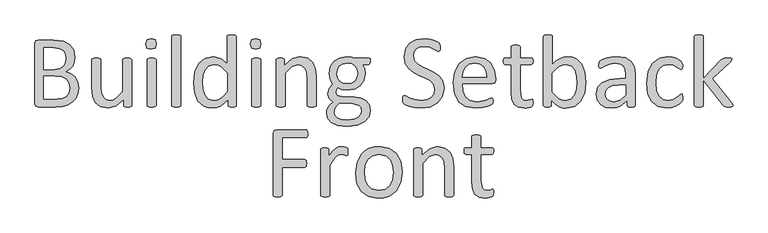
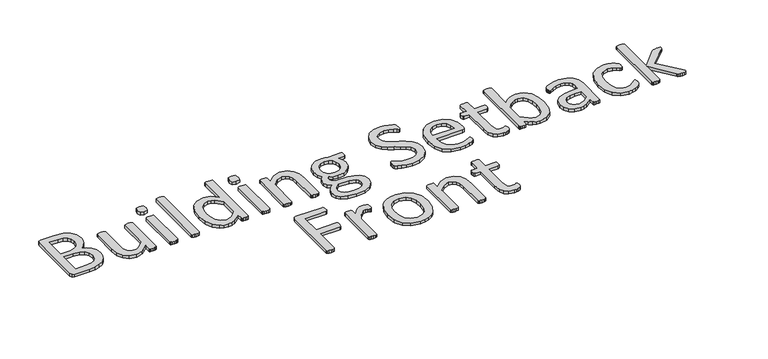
"""IFC4 building model written with IfcOpenShell, lengths in millimetres: proxy geometry, Marker-Setback Bldg Distance : Setback-Building-Front."""

from ifc_helpers import new_model, si_unit, origin, origin_with_axes, place, context, project, spatial, polyline, outline, extrude, source, transform, mapped, element, save


def generic_models_9ae01eea(model_context):
    return source(origin(), model_context, "Body", "SweptSolid", [
        extrude(outline(polyline([(2948.652928, 103.9978258), (2946.2704862, 86.8080563), (2939.5755234, 72.6340358), (2929.2013467, 61.6265518), (2915.5098461, 53.6649743), (2899.1946438, 48.8397759), (2879.2907001, 47.2414289), (2827.2388718, 47.2414289), (2820.5740664, 49.6540281), (2817.4075299, 58.0981254), (2817.4075299, 237.1129882), (2820.6042239, 245.5570855), (2827.3595017, 247.9696848), (2872.9576272, 247.9696848), (2902.4818102, 244.5015734), (2921.6318166, 234.4289716), (2933.1821354, 218.2042418), (2937.0724517, 196.4606912), (2935.3534747, 182.6184031), (2930.3171738, 170.4046195), (2921.9333915, 160.3923327), (2910.3529152, 153.1545351), (2925.3110304, 147.5753993), (2937.4343416, 137.2313801), (2945.6371789, 122.5446823), (2948.652928, 103.9978258)]), holes=[polyline([(2910.0513403, 192.8417924), (2908.0307885, 206.1714031), (2901.6977155, 216.2741624), (2890.4188141, 222.6072354), (2871.9925875, 224.8087322), (2844.4286413, 224.8087322), (2844.4286413, 159.1860331), (2874.7670766, 159.1860331), (2891.4743262, 161.9303648), (2901.9992904, 169.2887924), (2908.1212609, 180.085174), (2910.0513403, 192.8417924)]), polyline([(2921.6318166, 103.7565658), (2918.7970125, 119.3178309), (2910.5037027, 130.5967323), (2896.812202, 137.5329551), (2876.0940062, 139.8852393), (2844.4286413, 139.8852393), (2844.4286413, 70.4023815), (2882.849284, 70.4023815), (2898.7121239, 72.5435633), (2910.6243326, 78.8766363), (2918.70654, 89.311128), (2921.6318166, 103.7565658)])]), origin_with_axes(), (0.0, 0.0, 1.0), 10.0),
        extrude(outline(polyline([(3106.9194374, 51.9459974), (3106.3464451, 49.8952881), (3104.3258932, 48.4477285), (3100.495892, 47.5430038), (3094.7358113, 47.2414289), (3088.5836833, 47.5430038), (3084.8441545, 48.4477285), (3082.9743901, 49.8952881), (3082.4918702, 51.9459974), (3082.4918702, 70.1008066), (3059.3610751, 49.7746581), (3036.23028, 43.3812701), (3013.1899574, 48.0255236), (2998.0508972, 60.6011971), (2989.7575873, 79.1178962), (2987.2545156, 104.8422355), (2987.2545156, 189.1625786), (2987.827508, 191.2132879), (2990.0290048, 192.7513199), (2994.2510534, 193.6862021), (3000.7650713, 193.927462), (3007.2790892, 193.6862021), (3011.4106654, 192.7814774), (3013.6121622, 191.2736029), (3014.275627, 189.1625786), (3014.275627, 109.0642841), (3015.9644465, 89.7333328), (3021.1515348, 77.3386043), (3029.957522, 69.3770268), (3042.382408, 66.5422227), (3051.527667, 68.2385816), (3060.6276897, 73.3276581), (3079.898326, 93.2617592), (3079.898326, 189.2228935), (3080.4713184, 191.2736029), (3082.6728152, 192.7814774), (3086.8345488, 193.6862021), (3093.4088817, 193.927462), (3099.9228996, 193.6862021), (3103.9941608, 192.7814774), (3106.1956576, 191.2736029), (3106.9194374, 189.2228935), (3106.9194374, 51.9459974)])), origin_with_axes(), (0.0, 0.0, 1.0), 10.0),
        extrude(outline(polyline([(3180.262454, 51.9459974), (3179.5989892, 49.8952881), (3177.4578074, 48.4477285), (3173.3865462, 47.5430038), (3166.6915833, 47.2414289), (3160.1172504, 47.5430038), (3155.9555167, 48.4477285), (3153.8143349, 49.8952881), (3153.2413426, 51.9459974), (3153.2413426, 189.2228935), (3153.8143349, 191.1831304), (3155.9555167, 192.7211624), (3160.1172504, 193.6258871), (3166.6915833, 193.927462), (3173.3865462, 193.6258871), (3177.4578074, 192.7211624), (3179.5989892, 191.1831304), (3180.262454, 189.2228935), (3180.262454, 51.9459974)])), origin_with_axes(), (0.0, 0.0, 1.0), 10.0),
        extrude(outline(polyline([(3180.262454, 236.5701534), (3176.94513, 224.2357399), (3164.640874, 220.9485734), (3152.6381928, 224.1452674), (3149.3811838, 236.2082635), (3152.6985078, 248.5426771), (3165.0027639, 251.8298435), (3177.005445, 248.6331496), (3180.262454, 236.5701534)])), origin_with_axes(), (0.0, 0.0, 1.0), 10.0),
        extrude(outline(polyline([(3253.6054705, 52.0063124), (3252.9420058, 49.955603), (3250.8008239, 48.477886), (3246.7295627, 47.5430038), (3240.0345999, 47.2414289), (3233.460267, 47.5430038), (3229.2985333, 48.477886), (3227.1573515, 49.955603), (3226.5843592, 52.0063124), (3226.5843592, 258.4644914), (3227.1573515, 260.6358307), (3229.2985333, 262.1738627), (3233.460267, 263.1087449), (3240.0345999, 263.4103198), (3246.7295627, 263.1087449), (3250.8008239, 262.1738627), (3252.9420058, 260.6358307), (3253.6054705, 258.4644914), (3253.6054705, 52.0063124)])), origin_with_axes(), (0.0, 0.0, 1.0), 10.0),
        extrude(outline(polyline([(3419.5922975, 52.0666274), (3419.0193052, 49.8651306), (3417.0590683, 48.3874135), (3413.410012, 47.5430038), (3407.8911913, 47.2414289), (3402.1612681, 47.5430038), (3398.4217393, 48.3270986), (3396.310715, 49.6841856), (3395.6472502, 51.7047375), (3395.6472502, 68.834192), (3373.2402348, 50.1063905), (3361.0792268, 45.0625502), (3347.8174704, 43.3812701), (3333.8545524, 44.8816053), (3322.1232887, 49.3826107), (3304.9033617, 65.6073405), (3295.2529647, 89.6730178), (3292.2070582, 118.774996), (3296.006902, 151.4958731), (3307.2254884, 176.4059601), (3325.6215575, 192.2386426), (3351.0141644, 197.7876208), (3372.9386599, 192.38943), (3392.5711861, 176.5567476), (3392.5711861, 258.4041764), (3393.1441785, 260.5152008), (3395.3456753, 262.0833903), (3399.5074089, 263.0182725), (3405.9007969, 263.4103198), (3412.5957598, 263.0182725), (3416.6670209, 262.0833903), (3418.8685177, 260.5453582), (3419.5922975, 258.4644914), (3419.5922975, 52.0666274)]), holes=[polyline([(3392.5711861, 149.0531164), (3373.2100773, 168.0824928), (3363.6652316, 172.9906243), (3353.7283386, 174.6266682), (3337.7448687, 170.0427297), (3327.0691171, 157.949576), (3321.097934, 140.9407515), (3319.2281696, 121.6701151), (3320.7963591, 101.2836516), (3326.2548648, 83.6113623), (3336.5687265, 71.2166337), (3352.7029839, 66.5422227), (3362.1724359, 67.8993098), (3371.5212579, 72.3927759), (3381.5033872, 80.5352983), (3392.5711861, 92.8998693), (3392.5711861, 149.0531164)])]), origin_with_axes(), (0.0, 0.0, 1.0), 10.0),
        extrude(outline(polyline([(3492.9353141, 236.5701534), (3489.6179901, 224.2357399), (3477.3137341, 220.9485734), (3465.3110529, 224.1452674), (3462.0540439, 236.2082635), (3465.3713679, 248.5426771), (3477.675624, 251.8298435), (3489.6783051, 248.6331496), (3492.9353141, 236.5701534)])), origin_with_axes(), (0.0, 0.0, 1.0), 10.0),
        extrude(outline(polyline([(3492.9353141, 51.9459974), (3492.2718493, 49.8952881), (3490.1306675, 48.4477285), (3486.0594063, 47.5430038), (3479.3644434, 47.2414289), (3472.7901105, 47.5430038), (3468.6283768, 48.4477285), (3466.487195, 49.8952881), (3465.9142027, 51.9459974), (3465.9142027, 189.2228935), (3466.487195, 191.1831304), (3468.6283768, 192.7211624), (3472.7901105, 193.6258871), (3479.3644434, 193.927462), (3486.0594063, 193.6258871), (3490.1306675, 192.7211624), (3492.2718493, 191.1831304), (3492.9353141, 189.2228935), (3492.9353141, 51.9459974)])), origin_with_axes(), (0.0, 0.0, 1.0), 10.0),
        extrude(outline(polyline([(3658.922141, 52.0063124), (3658.2586763, 49.955603), (3656.1174944, 48.477886), (3652.0462332, 47.5430038), (3645.4719003, 47.2414289), (3638.7769375, 47.5430038), (3634.7056763, 48.4477285), (3632.5644945, 49.8952881), (3631.9010297, 52.0063124), (3631.9010297, 132.5871266), (3630.1217378, 151.5260306), (3624.9648069, 163.9207591), (3616.1889772, 171.8823366), (3603.7339337, 174.6266682), (3585.428337, 167.9015478), (3566.2783306, 148.1483917), (3566.2783306, 52.0063124), (3565.6148659, 49.8952881), (3563.473684, 48.4477285), (3559.4024228, 47.5430038), (3552.70746, 47.2414289), (3546.1331271, 47.5430038), (3541.9713934, 48.4477285), (3539.8302116, 49.8952881), (3539.2572193, 51.9459974), (3539.2572193, 189.2228935), (3539.7397391, 191.2736029), (3541.699976, 192.7814774), (3545.4696623, 193.6862021), (3551.5614754, 193.927462), (3557.5326584, 193.6862021), (3561.2118723, 192.7814774), (3563.1117942, 191.2736029), (3563.6847865, 189.2228935), (3563.6847865, 171.0680843), (3586.7552666, 191.3640754), (3609.9463767, 197.7876208), (3632.9866993, 193.0830523), (3648.1257595, 180.5073788), (3656.4190693, 162.0811522), (3658.922141, 136.6885453), (3658.922141, 52.0063124)])), origin_with_axes(), (0.0, 0.0, 1.0), 10.0),
        extrude(outline(polyline([(3821.0488092, 184.2167501), (3819.5710922, 176.88848), (3815.8014059, 174.6266682), (3795.8371473, 174.6266682), (3803.4368349, 162.1414672), (3805.6081742, 147.9674467), (3801.7480154, 126.4953136), (3790.6802165, 110.6927886), (3773.5507619, 100.8312893), (3751.5659514, 97.4234929), (3735.3713791, 99.6853046), (3723.5194854, 105.3850703), (3718.694287, 99.0821548), (3716.8245225, 90.9094749), (3721.9512959, 81.9828578), (3735.5824816, 78.122699), (3772.6158797, 76.5545095), (3792.0373035, 73.629233), (3807.3271511, 66.1803328), (3817.4299104, 54.3284391), (3821.0488092, 38.0132368), (3817.0077055, 19.3457503), (3804.612977, 3.7844853), (3783.3217888, -6.8007938), (3752.7722511, -10.6609526), (3723.8512178, -7.7658335), (3704.309164, 0.135429), (3693.2413651, 12.1079526), (3689.8034112, 27.1565403), (3691.0398683, 37.1989846), (3694.8397121, 46.4271767), (3701.1727851, 54.7808015), (3709.8882998, 62.682064), (3697.6443587, 72.6038783), (3693.6635699, 85.5414417), (3697.7649886, 102.7010537), (3707.8979054, 116.2417669), (3700.2982178, 129.2094877), (3697.5237287, 146.7611471), (3701.5346749, 168.2031228), (3712.6929464, 184.2469076), (3729.8224009, 194.2893519), (3751.5659514, 197.7876208), (3763.3876877, 196.7622661), (3773.7015494, 193.927462), (3815.8014059, 193.927462), (3819.7218797, 191.5450203), (3821.0488092, 184.2167501)]), holes=[polyline([(3782.4472216, 147.7865018), (3780.411591, 160.6712895), (3774.3046992, 170.3744621), (3764.4431998, 176.4587357), (3751.1437466, 178.486827), (3737.6935059, 175.9535978), (3728.1637389, 169.017375), (3722.5242882, 158.8543007), (3720.6846813, 146.8214621), (3722.7203119, 134.2759461), (3728.8272037, 124.7461791), (3738.5982306, 118.7297598), (3751.6262664, 116.7242867), (3765.3479245, 119.1670434), (3774.968164, 125.9524788), (3780.6076147, 135.9647656), (3782.4472216, 147.7865018)]), polyline([(3794.0276979, 37.1688271), (3792.1579335, 45.6657), (3786.5486403, 51.9761549), (3766.3431217, 57.4949756), (3729.6716134, 58.8219052), (3721.3783036, 50.9809577), (3716.2515302, 43.86379), (3713.6579861, 37.1989846), (3712.9643638, 30.4135493), (3715.557908, 20.9817942), (3723.3385405, 14.158662), (3735.7634265, 10.0195464), (3752.2897312, 8.6398412), (3772.0730449, 11.022283), (3784.9201358, 17.3855134), (3791.9166736, 26.462918), (3794.0276979, 37.1688271)])]), origin_with_axes(), (0.0, 0.0, 1.0), 10.0),
        extrude(outline(polyline([(4041.077859, 103.153416), (4035.8907706, 77.8211241), (4021.4453327, 58.9726927), (3999.7017822, 47.3017439), (3972.8013008, 43.3812701), (3954.1036567, 44.8891447), (3938.7233367, 48.598516), (3927.3841203, 53.152297), (3921.0208898, 57.1632432), (3918.3971881, 61.8074967), (3917.5527784, 69.7389167), (3917.8543533, 75.6196273), (3918.7892355, 79.3893136), (3920.357425, 81.4098655), (3922.5589218, 81.9828578), (3928.7412073, 79.5702586), (3939.0249116, 74.3228552), (3954.1338142, 69.0151369), (3974.5504352, 66.5422227), (3990.6243776, 68.894507), (4003.1397361, 75.5291549), (4011.2219435, 86.0239615), (4014.0567476, 100.197982), (4010.0759589, 114.9148373), (3999.6113097, 125.6207464), (3984.8039819, 134.0648437), (3967.7348424, 141.9057912), (3950.7561753, 150.7419358), (3936.0091625, 162.1414672), (3925.4540409, 177.5821023), (3921.4129372, 198.7526605), (3926.0270332, 221.4009358), (3938.8439666, 238.0478704), (3958.3860204, 248.3014172), (3982.8739025, 251.8298435), (3996.4146157, 250.5330714), (4009.2315491, 247.0951175), (4019.9676157, 242.3000766), (4026.1499012, 238.0177129), (4028.0799806, 235.5146412), (4028.8640754, 233.282987), (4029.3465952, 229.9958205), (4029.4973827, 225.0499921), (4029.2561227, 219.9232187), (4028.5625004, 216.1836899), (4027.2355709, 213.9520356), (4025.275334, 213.2282559), (4019.8469857, 215.5805401), (4010.7997386, 220.8581009), (3998.1335927, 226.2261342), (3981.7279179, 228.6688909), (3966.9809051, 226.4673941), (3956.6067284, 220.616841), (3950.4847579, 211.9314838), (3948.4340486, 201.2858897), (3952.3545223, 186.7499793), (3962.8191715, 175.9535978), (3977.6868142, 167.3285555), (3994.6654813, 159.4272931), (4011.6743058, 150.6514634), (4026.5419486, 139.372562), (4037.0669127, 124.0525569), (4041.077859, 103.153416)])), origin_with_axes(), (0.0, 0.0, 1.0), 10.0),
        extrude(outline(polyline([(4195.4842096, 127.7619282), (4192.4986181, 119.2575159), (4185.6528678, 116.7242867), (4095.1200817, 116.7242867), (4097.3818935, 94.4077438), (4104.8911086, 77.3989193), (4118.5826092, 66.4819078), (4139.2103326, 62.682064), (4156.3397871, 64.4613559), (4169.367823, 68.4723021), (4178.3849126, 72.4832483), (4183.7227884, 74.2625403), (4185.5925528, 73.7498629), (4186.8893249, 72.2419884), (4187.5527897, 69.4373418), (4187.7638921, 65.0343482), (4187.6131046, 61.8074967), (4187.2210573, 59.36474), (4186.46712, 57.4045032), (4185.1100329, 55.7458412), (4180.194362, 52.8205646), (4169.6090829, 48.6588309), (4154.5303377, 45.0097746), (4136.2548985, 43.3812701), (4106.7910305, 48.2064686), (4085.5299997, 62.561434), (4072.5019639, 86.4763239), (4068.0989703, 119.8606657), (4072.7130663, 152.4307553), (4086.0125196, 176.9186375), (4107.0021329, 192.38943), (4134.5660791, 197.7876208), (4162.3109702, 192.570375), (4181.1594017, 178.5169845), (4192.0160982, 157.7987886), (4195.4842096, 132.4061817), (4195.4842096, 127.7619282)]), holes=[polyline([(4168.4630983, 136.0250805), (4166.5104008, 153.7350668), (4159.8078985, 167.1777681), (4148.5214577, 175.6595622), (4132.8169446, 178.486827), (4116.7430023, 174.9885581), (4105.1926835, 165.6698936), (4097.9850433, 152.1291804), (4095.1200817, 136.0250805), (4168.4630983, 136.0250805)])]), origin_with_axes(), (0.0, 0.0, 1.0), 10.0),
        extrude(outline(polyline([(4307.4288139, 61.1138745), (4306.825664, 53.5745019), (4304.9860571, 49.4730832), (4301.3068433, 47.000169), (4295.7277076, 45.1002471), (4289.0629022, 43.86379), (4282.036207, 43.3812701), (4263.6702953, 46.3065467), (4251.1549368, 55.1426914), (4244.0377691, 70.1309641), (4241.8061148, 91.5729397), (4241.8061148, 174.6266682), (4223.4703607, 174.6266682), (4219.9419343, 176.88848), (4218.6451622, 184.2167501), (4219.0070521, 188.7102162), (4219.9419343, 191.7561227), (4221.4799663, 193.4449422), (4223.5909906, 193.927462), (4241.8061148, 193.927462), (4241.8061148, 227.5229063), (4242.3791071, 229.5434582), (4244.520289, 231.2021201), (4248.6820226, 232.2274748), (4255.2563555, 232.5290497), (4261.9513184, 232.2274748), (4266.0225796, 231.2021201), (4268.1637614, 229.5434582), (4268.8272262, 227.5229063), (4268.8272262, 193.927462), (4302.6036154, 193.927462), (4304.6241672, 193.4449422), (4306.1621993, 191.7561227), (4307.1272389, 188.7102162), (4307.4288139, 184.2167501), (4306.1018843, 176.88848), (4302.6036154, 174.6266682), (4268.8272262, 174.6266682), (4268.8272262, 95.9759333), (4272.8381724, 73.9911229), (4278.4399262, 68.4044478), (4287.2232953, 66.5422227), (4293.2246359, 67.235845), (4297.8990469, 68.6834045), (4301.4274733, 70.1611216), (4304.0511749, 70.8849013), (4306.4637742, 69.0151369), (4307.1272389, 65.9993879), (4307.4288139, 61.1138745)])), origin_with_axes(), (0.0, 0.0, 1.0), 10.0),
        extrude(outline(polyline([(4465.6953233, 122.3938949), (4461.8351645, 89.5222304), (4450.4657907, 64.6121434), (4432.0094065, 48.8397759), (4406.9485321, 43.3812701), (4394.8855359, 44.7081997), (4384.0288394, 49.0207208), (4373.4134028, 56.5299359), (4362.1948164, 67.4469474), (4362.1948164, 51.7047375), (4361.5313516, 49.6841856), (4359.3901698, 48.3270986), (4355.7109559, 47.5430038), (4350.0715052, 47.2414289), (4344.522527, 47.5430038), (4340.7528407, 48.3874135), (4338.7926038, 49.8651306), (4338.310084, 52.0063124), (4338.310084, 258.4644914), (4338.8830763, 260.6358307), (4341.0242581, 262.1738627), (4345.1859918, 263.1087449), (4351.7603247, 263.4103198), (4358.4552875, 263.1087449), (4362.5265487, 262.1738627), (4364.6677306, 260.6056732), (4365.3311954, 258.4644914), (4365.3311954, 174.6869832), (4377.0624591, 185.4532072), (4388.190573, 192.570375), (4399.0774271, 196.5511637), (4410.5674309, 197.7876208), (4424.3267859, 196.2646675), (4435.9298803, 191.6958077), (4453.0593348, 175.3806055), (4462.6795742, 151.4054006), (4465.6953233, 122.3938949)]), holes=[polyline([(4438.6742119, 119.4384608), (4437.1060224, 139.9757118), (4431.6173592, 157.6178436), (4421.27334, 169.9522572), (4405.1993976, 174.6266682), (4395.7902606, 173.2695811), (4386.3509661, 168.7459576), (4376.3688368, 160.6335927), (4365.3311954, 148.1483917), (4365.3311954, 92.1157746), (4384.8129341, 73.0863981), (4394.2974648, 68.1782666), (4404.1740429, 66.5422227), (4420.0670404, 71.1563188), (4430.8031069, 83.3399449), (4436.8044475, 100.3487694), (4438.6742119, 119.4384608)])]), origin_with_axes(), (0.0, 0.0, 1.0), 10.0),
        extrude(outline(polyline([(4612.3813564, 51.8856824), (4611.0544268, 49.0810358), (4607.435528, 47.6937913), (4600.6802502, 47.2414289), (4593.8344998, 47.6937913), (4590.1251285, 49.0810358), (4588.9791439, 51.8856824), (4588.9791439, 65.758128), (4568.6529954, 49.7143431), (4557.1026766, 44.9645384), (4544.888893, 43.3812701), (4524.9547919, 46.2462317), (4509.7855742, 54.5395416), (4500.0447048, 67.8691523), (4496.5765934, 85.8430166), (4501.3716344, 106.289795), (4515.12345, 120.7050754), (4537.0479455, 129.2999602), (4566.2403962, 132.1649218), (4585.3602451, 132.1649218), (4585.3602451, 143.6850831), (4583.6714256, 158.7638283), (4578.2430773, 169.6808398), (4568.5625229, 176.2551727), (4553.9361401, 178.486827), (4537.1987329, 176.0742277), (4524.2310121, 170.7665094), (4514.9123476, 165.4587911), (4509.3633693, 163.0461919), (4507.19203, 163.6794992), (4505.593683, 165.6095786), (4504.5984859, 168.9269025), (4504.296911, 173.3600536), (4504.8397458, 179.6931266), (4507.4936049, 184.1262777), (4514.7314026, 188.6499012), (4526.5531388, 193.1132098), (4541.1795217, 196.4606912), (4557.1931491, 197.7876208), (4582.8270159, 194.3798244), (4599.9263129, 184.4278526), (4609.4259224, 168.1729653), (4612.3813564, 145.4945325), (4612.3813564, 51.8856824)]), holes=[polyline([(4585.3602451, 112.8641279), (4563.8881119, 112.8641279), (4545.9745626, 111.084836), (4533.3385742, 105.8374327), (4525.949989, 97.5139653), (4523.5977048, 86.3255364), (4525.2865242, 76.584667), (4530.3529826, 69.0754519), (4538.4653475, 64.280411), (4549.2918866, 62.682064), (4567.6276407, 67.7786798), (4585.3602451, 83.3701024), (4585.3602451, 112.8641279)])]), origin_with_axes(), (0.0, 0.0, 1.0), 10.0),
        extrude(outline(polyline([(4755.2072308, 74.98632), (4755.0564433, 70.7642714), (4754.5136085, 67.7485223), (4753.6088838, 65.3057656), (4751.1962846, 61.6868668), (4744.7124241, 55.8061562), (4734.4287199, 49.5635557), (4722.0339914, 45.1002471), (4708.1615458, 43.3812701), (4681.9848442, 48.3874135), (4662.8951528, 63.0137964), (4651.163889, 86.5969538), (4647.1227853, 118.835311), (4652.0686137, 154.5719371), (4665.6093269, 179.0296618), (4685.8450029, 193.1735248), (4711.0566649, 197.7876208), (4723.7831258, 196.4305337), (4735.1223422, 192.8719499), (4744.3505343, 187.8054915), (4750.2010874, 182.8898206), (4752.7041591, 179.6629691), (4753.8501437, 177.0995824), (4754.4532935, 173.9330459), (4754.604081, 169.4998948), (4753.2469939, 161.4780024), (4749.9598275, 159.1860331), (4744.7425816, 161.5986324), (4737.2936815, 166.9063507), (4726.3465125, 172.214069), (4711.2376098, 174.6266682), (4695.3672305, 171.1283993), (4683.7038211, 160.6335927), (4676.5338778, 143.4739807), (4674.1438967, 119.9812957), (4676.6168109, 96.6393981), (4683.9149236, 79.8718335), (4695.7668173, 69.8293892), (4711.8407596, 66.5422227), (4726.8893473, 69.5881293), (4738.1079338, 76.2830921), (4746.0996687, 82.8875825), (4751.1661271, 85.8430166), (4752.945419, 85.2700243), (4754.2421911, 83.3399449), (4754.9961284, 79.901991), (4755.2072308, 74.98632)])), origin_with_axes(), (0.0, 0.0, 1.0), 10.0),
        extrude(outline(polyline([(4905.7534227, 52.1269423), (4905.1201154, 49.9857605), (4903.0392486, 48.4477285), (4898.9679874, 47.5430038), (4892.303182, 47.2414289), (4885.4272742, 47.4826888), (4880.8433356, 48.2366261), (4877.8275866, 49.7445006), (4875.7165623, 52.1269423), (4816.9697711, 128.0635031), (4816.9697711, 51.9459974), (4816.3063063, 49.8952881), (4814.1651244, 48.4477285), (4810.0938633, 47.5430038), (4803.3989004, 47.2414289), (4796.8245675, 47.5430038), (4792.6628338, 48.477886), (4790.521652, 49.955603), (4789.9486597, 52.0063124), (4789.9486597, 258.4644914), (4790.521652, 260.6358307), (4792.6628338, 262.1738627), (4796.8245675, 263.1087449), (4803.3989004, 263.4103198), (4810.0938633, 263.1087449), (4814.1651244, 262.1738627), (4816.3063063, 260.6056732), (4816.9697711, 258.4041764), (4816.9697711, 131.561772), (4870.6501039, 188.6197437), (4873.3341205, 191.1228154), (4876.7117595, 192.7814774), (4881.356013, 193.6862021), (4887.8398734, 193.927462), (4894.4745213, 193.6862021), (4898.7870424, 192.9322649), (4901.1694842, 191.5751778), (4901.8932639, 189.3435235), (4900.8377518, 185.6944672), (4897.3093254, 181.442261), (4843.9908824, 131.7427169), (4901.9535789, 59.304425), (4904.8788555, 55.1125339), (4905.7534227, 52.1269423)])), origin_with_axes(), (0.0, 0.0, 1.0), 10.0),
        extrude(outline(polyline([(3633.8311091, -33.2745943), (3633.5295342, -38.4918401), (3632.474022, -42.050424), (3630.7248876, -44.0408183), (3628.6440207, -44.6741256), (3556.6279337, -44.6741256), (3556.6279337, -110.2968247), (3624.663232, -110.2968247), (3626.7440988, -110.869817), (3628.4932333, -112.7395814), (3629.5487454, -116.2076928), (3629.8503203, -121.816986), (3629.5487454, -127.0643893), (3628.4932333, -130.6229732), (3626.7440988, -132.7339975), (3624.663232, -133.4577773), (3556.6279337, -133.4577773), (3556.6279337, -217.2956005), (3555.9946264, -219.3764673), (3553.7931296, -220.9144993), (3549.7218684, -221.8493815), (3543.117378, -222.2414289), (3536.6636751, -221.8493815), (3532.4416265, -220.9144993), (3530.2401297, -219.3764673), (3529.6068224, -217.2956005), (3529.6068224, -32.3095546), (3532.7432014, -23.8956148), (3539.4381642, -21.513173), (3628.6440207, -21.513173), (3630.6645726, -22.1464803), (3632.4438645, -24.1971897), (3633.5295342, -27.9367185), (3633.8311091, -33.2745943)])), origin_with_axes(), (0.0, 0.0, 1.0), 10.0),
        extrude(outline(polyline([(3753.4960308, -87.1358721), (3753.3452434, -92.6245353), (3752.7420936, -96.1831192), (3751.6262664, -98.203671), (3749.756502, -98.8972933), (3746.8312255, -98.203671), (3742.9409092, -96.8164265), (3738.0855533, -95.4894969), (3732.2651576, -94.8561896), (3724.90673, -96.5148516), (3717.3371999, -101.9431998), (3709.04389, -111.9554866), (3699.4538081, -127.2453343), (3699.4538081, -217.5368604), (3698.7903433, -219.5875697), (3696.6491615, -221.0351293), (3692.5779003, -221.939854), (3685.8829374, -222.2414289), (3679.3086045, -221.939854), (3675.1468709, -221.0351293), (3673.005689, -219.5875697), (3672.4326967, -217.5368604), (3672.4326967, -80.2599643), (3672.9152166, -78.2092549), (3674.8754535, -76.7013804), (3678.6451397, -75.7966557), (3684.7369528, -75.5553958), (3690.7081359, -75.7966557), (3694.3873497, -76.7013804), (3696.2872716, -78.2092549), (3696.8602639, -80.2599643), (3696.8602639, -100.2845379), (3707.2947556, -85.9898874), (3716.5531051, -77.2743727), (3725.1781474, -72.9015366), (3733.8333471, -71.695237), (3738.2363407, -71.9063394), (3743.4234291, -72.7205917), (3748.3089425, -74.0776787), (3751.3850065, -75.5553958), (3752.5913061, -76.9426403), (3753.1341409, -78.6616173), (3753.4357159, -81.7075238), (3753.4960308, -87.1358721)])), origin_with_axes(), (0.0, 0.0, 1.0), 10.0),
        extrude(outline(polyline([(3915.622699, -147.3905378), (3911.1593905, -179.0257452), (3897.7996222, -203.9358322), (3887.7873354, -213.2469574), (3875.5433943, -220.2510345), (3861.1205746, -224.6389494), (3844.5716517, -226.1015877), (3814.7157363, -220.9446568), (3793.4848631, -205.9563841), (3780.8187171, -182.0716517), (3776.6569834, -150.2253419), (3781.059977, -118.5901345), (3794.3292728, -93.710205), (3804.3038627, -84.4367767), (3816.4950282, -77.4854751), (3830.9027692, -73.1427965), (3847.5270858, -71.695237), (3877.4131587, -76.8521679), (3898.644032, -91.8404406), (3911.3704929, -115.7251729), (3915.622699, -147.3905378)]), holes=[polyline([(3888.6015877, -149.1999872), (3886.5207208, -128.2405314), (3879.6749705, -110.930132), (3866.7977221, -99.1687107), (3846.5017311, -94.8561896), (3827.2310948, -98.8068208), (3813.961799, -109.9650923), (3806.211324, -127.0342318), (3803.6780948, -148.5968374), (3805.7589616, -169.6769232), (3812.6650269, -186.9270077), (3825.6327478, -198.6281139), (3845.8985813, -202.9406351), (3865.1089027, -198.9900038), (3878.4686709, -187.9222049), (3886.1588309, -170.9133803), (3888.6015877, -149.1999872)])]), origin_with_axes(), (0.0, 0.0, 1.0), 10.0),
        extrude(outline(polyline([(4070.0290497, -217.4765454), (4069.3655849, -219.5272548), (4067.2244031, -221.0049718), (4063.1531419, -221.939854), (4056.578809, -222.2414289), (4049.8838461, -221.939854), (4045.8125849, -221.0351293), (4043.6714031, -219.5875697), (4043.0079383, -217.4765454), (4043.0079383, -136.8957312), (4041.2286464, -117.9568272), (4036.0717156, -105.5620987), (4027.2958859, -97.6005212), (4014.8408423, -94.8561896), (3996.5352457, -101.58131), (3977.3852393, -121.3344661), (3977.3852393, -217.4765454), (3976.7217745, -219.5875697), (3974.5805927, -221.0351293), (3970.5093315, -221.939854), (3963.8143686, -222.2414289), (3957.2400357, -221.939854), (3953.0783021, -221.0351293), (3950.9371203, -219.5875697), (3950.3641279, -217.5368604), (3950.3641279, -80.2599643), (3950.8466478, -78.2092549), (3952.8068847, -76.7013804), (3956.5765709, -75.7966557), (3962.668384, -75.5553958), (3968.6395671, -75.7966557), (3972.3187809, -76.7013804), (3974.2187028, -78.2092549), (3974.7916951, -80.2599643), (3974.7916951, -98.4147735), (3997.8621753, -78.1187824), (4021.0532853, -71.695237), (4044.093608, -76.3998055), (4059.2326682, -88.975479), (4067.525978, -107.4017056), (4070.0290497, -132.7943125), (4070.0290497, -217.4765454)])), origin_with_axes(), (0.0, 0.0, 1.0), 10.0),
        extrude(outline(polyline([(4189.6939715, -208.3689833), (4189.0908217, -215.9083559), (4187.2512147, -220.0097746), (4183.5720009, -222.4826888), (4177.9928652, -224.3826107), (4171.3280598, -225.6190678), (4164.3013646, -226.1015877), (4145.9354529, -223.1763111), (4133.4200944, -214.3401664), (4126.3029267, -199.3518937), (4124.0712724, -177.9099181), (4124.0712724, -94.8561896), (4105.7355183, -94.8561896), (4102.2070919, -92.5943778), (4100.9103198, -85.2661077), (4101.2722097, -80.7726416), (4102.2070919, -77.7267351), (4103.7451239, -76.0379156), (4105.8561483, -75.5553958), (4124.0712724, -75.5553958), (4124.0712724, -41.9599515), (4124.6442648, -39.9393996), (4126.7854466, -38.2807377), (4130.9471802, -37.255383), (4137.5215131, -36.9538081), (4144.216476, -37.255383), (4148.2877372, -38.2807377), (4150.428919, -39.9393996), (4151.0923838, -41.9599515), (4151.0923838, -75.5553958), (4184.868773, -75.5553958), (4186.8893249, -76.0379156), (4188.4273569, -77.7267351), (4189.3923966, -80.7726416), (4189.6939715, -85.2661077), (4188.3670419, -92.5943778), (4184.868773, -94.8561896), (4151.0923838, -94.8561896), (4151.0923838, -173.5069245), (4155.10333, -195.4917349), (4160.7050839, -201.07841), (4169.4884529, -202.9406351), (4175.4897935, -202.2470128), (4180.1642045, -200.7994533), (4183.6926309, -199.3217362), (4186.3163325, -198.5979565), (4188.7289318, -200.4677209), (4189.3923966, -203.4834699), (4189.6939715, -208.3689833)])), origin_with_axes(), (0.0, 0.0, 1.0), 10.0),
    ])


if __name__ == "__main__":
    model = new_model("IFC4")
    model_context = context("Model", 3, world=origin())
    ifc_project = project(units=[si_unit("LENGTHUNIT", "METRE", prefix="MILLI")], contexts=[model_context])
    site = spatial("IfcSite", under=ifc_project)
    building = spatial("IfcBuilding", under=site)
    placement = place(None, origin())
    generic_models_shape = generic_models_9ae01eea(model_context)
    element("IfcBuildingElementProxy", 1, Name="Marker-Setback Bldg Distance : Setback-Building-Front", ObjectType="Marker-Setback Bldg Distance : Setback-Building-Front", at=placement, inside=building, context=model_context, shape_type="MappedRepresentation", body=[
        mapped(generic_models_shape, transform((0.0, 0.0, 0.0), x_axis=(1.0, 0.0, 0.0), y_axis=(0.0, 1.0, 0.0), z_axis=(0.0, 0.0, 1.0))),
    ])
    save(model, "model.ifc")
